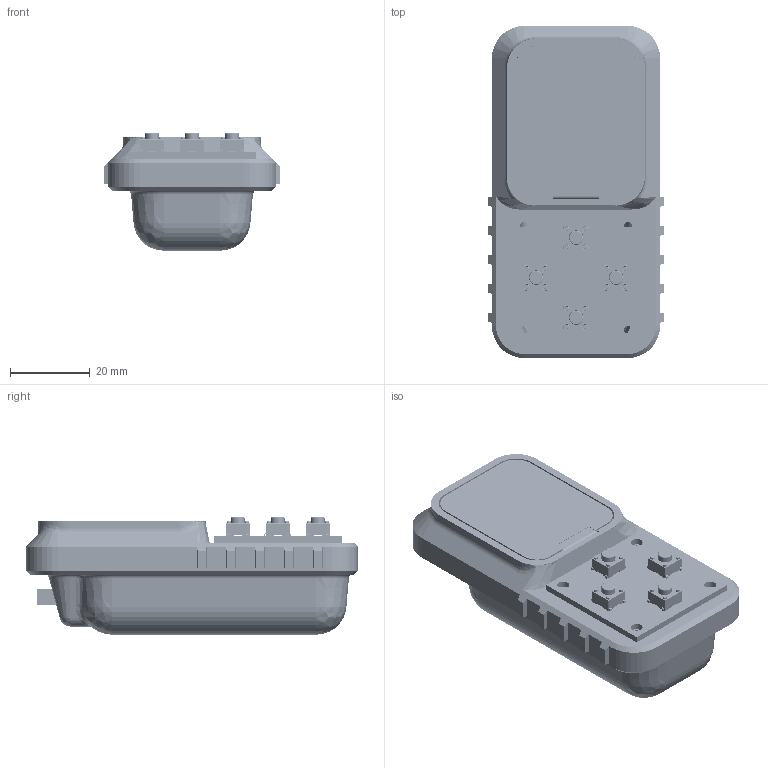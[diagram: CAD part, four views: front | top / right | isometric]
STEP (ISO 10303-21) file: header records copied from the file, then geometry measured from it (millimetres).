
FILE_DESCRIPTION(/* description */ (''),/* implementation_level */ '2;1');
FILE_NAME(/* name */ 'MINI SNAKE GAME CONSOLE.step',/* time_stamp */ '2025-05-18T11:51:59+05:30',/* author */ (''),/* organization */ (''),/* preprocessor_version */ 'ST-DEVELOPER v20.1',/* originating_system */ 'Autodesk Translation Framework v14.4.0.0',/* authorisation */ '');
FILE_SCHEMA (('AUTOMOTIVE_DESIGN { 1 0 10303 214 3 1 1 }'));
Products named in the file (250): ESP32-S3-LCD-1_69_ASM; COMPONENTS; BAT; DISPLAY; 1_69INCH-240X280-LCD; SMTSO-M2-2_5ET; ESP32-S3-LCD-1_69-PCBA_ASM; PCB_ASM; BOARD; R26_ASM; USER_LIBRARY-RES_0603-0201_ASM; R23_ASM; USER_LIBRARY-RES_0603-0201_ASM_1; R19_ASM; USER_LIBRARY-RES_0603-0201_ASM_2; R18_ASM; USER_LIBRARY-RES_0603-0201_ASM_3; R17_ASM; USER_LIBRARY-RES_0603-0201_ASM_4; L4_ASM; 1194956864_ASM; C27_ASM; C_0402_ASM; C_0402-4045_AF0_ASM_ASM; C_0402-672_AF0_ASM_ASM; C26_ASM; C_0402_ASM_1; C_0402-4045_AF0_ASM_ASM_1; C_0402-672_AF0_ASM_ASM_1; C25_ASM; USER_LIBRARY-0201_0603M__CAP_ASM; C24_ASM; USER_LIBRARY-0201_0603M__CAP_ASM_1; H2_ASM; 698B116-264-211_ASM; SOLID-65107; SOLID-155321; SOLID-156436; SOLID-157486; SOLID-158742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
Assembly tree (465 placements, depth 10):
  ESP32-S3-LCD-1_69_ASM
    COMPONENTS
      BAT
      DISPLAY
        1_69INCH-240X280-LCD
        SMTSO-M2-2_5ET  x4
        ESP32-S3-LCD-1_69-PCBA_ASM
          PCB_ASM
            BOARD
            R26_ASM
              USER_LIBRARY-RES_0603-0201_ASM
                USER_LIBRARY-RES_0603-0201_1
                USER_LIBRARY-RES_0603-0201_2
                USER_LIBRARY-RES_0603-0201_3
                USER_LIBRARY-RES_0603-0201_4
            R23_ASM
              USER_LIBRARY-RES_0603-0201_ASM_1
                USER_LIBRARY-RES_0603-0201_1
                USER_LIBRARY-RES_0603-0201_2
                USER_LIBRARY-RES_0603-0201_3
                USER_LIBRARY-RES_0603-0201_4
            R19_ASM
              USER_LIBRARY-RES_0603-0201_ASM_2
                USER_LIBRARY-RES_0603-0201_1
                USER_LIBRARY-RES_0603-0201_2
                USER_LIBRARY-RES_0603-0201_3
                USER_LIBRARY-RES_0603-0201_4
            R18_ASM
              USER_LIBRARY-RES_0603-0201_ASM_3
                USER_LIBRARY-RES_0603-0201_1
                USER_LIBRARY-RES_0603-0201_2
                USER_LIBRARY-RES_0603-0201_3
                USER_LIBRARY-RES_0603-0201_4
            R17_ASM
              USER_LIBRARY-RES_0603-0201_ASM_4
                USER_LIBRARY-RES_0603-0201_1
                USER_LIBRARY-RES_0603-0201_2
                USER_LIBRARY-RES_0603-0201_3
                USER_LIBRARY-RES_0603-0201_4
            L4_ASM
              1194956864_ASM
                EXTRUDED-15486
            C27_ASM
              C_0402_ASM
                C_0402-4045_AF0_ASM_ASM
                  C_0402-672_AF0_ASM_ASM
            C26_ASM
              C_0402_ASM_1
                C_0402-4045_AF0_ASM_ASM_1
                  C_0402-672_AF0_ASM_ASM_1
            C25_ASM
              USER_LIBRARY-0201_0603M__CAP_ASM
                USER_LIBRARY-0201_0603M__CAP_1
                USER_LIBRARY-0201_0603M__CAP_2
                USER_LIBRARY-0201_0603M__CAP_3
            C24_ASM
              USER_LIBRARY-0201_0603M__CAP_ASM_1
                USER_LIBRARY-0201_0603M__CAP_1
                USER_LIBRARY-0201_0603M__CAP_2
                USER_LIBRARY-0201_0603M__CAP_3
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Bounding box: 44 x 83 x 29.3 mm (x, y, z)
Volume: 31491 mm3; surface area: 38098.9 mm2
Topology: 289 solids, 308 shells, 13885 faces, 36134 edges, 23321 vertices
Faces by surface type: plane 8369, bspline 3056, cylinder 1958, sphere 366, cone 72, torus 64
Full cylindrical faces by diameter (mm): 0.1 x1, 0.2 x1, 0.5 x8, 0.7 x6, 0.762 x2, 0.8 x6, 1 x16, 2 x36, 2.19 x4, 2.25 x4, 2.5 x4, 3 x8, 3.5 x8, 5 x2, 6 x4, 15 x1
Entity records: 206259 total; most frequent: CARTESIAN_POINT 62285, ORIENTED_EDGE 29331, DIRECTION 27474, EDGE_CURVE 14670, LINE 11150, VECTOR 11150, VERTEX_POINT 9612, AXIS2_PLACEMENT_3D 8162
